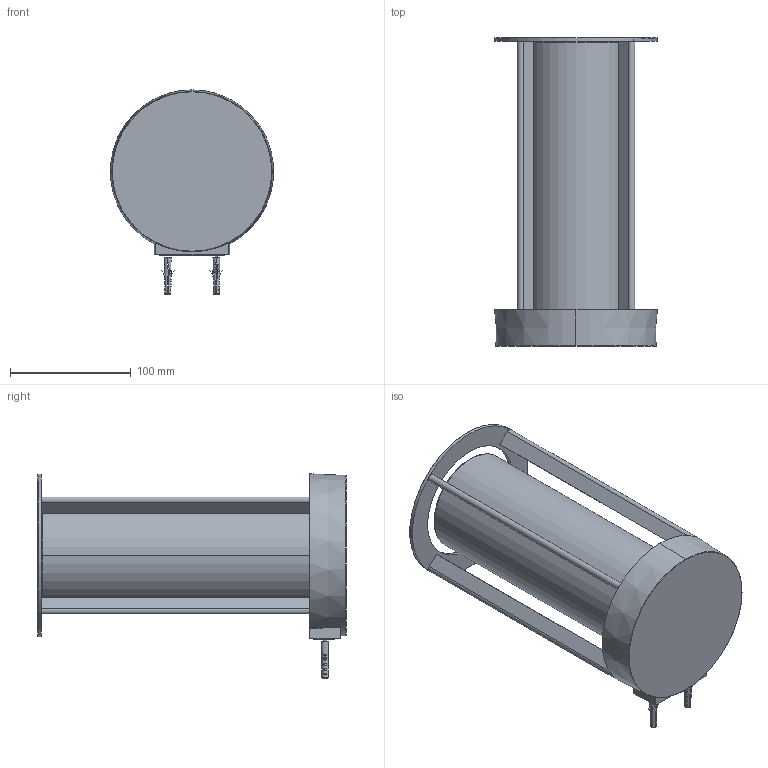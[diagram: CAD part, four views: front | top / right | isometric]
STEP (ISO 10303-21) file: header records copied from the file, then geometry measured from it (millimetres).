
FILE_DESCRIPTION((''),'2;1');
FILE_NAME('PARETE-VETRO_SW0001','2025-06-19T08:27:39',('Piccioli'),(''),'CREO PARAMETRIC BY PTC INC, 2020354','CREO PARAMETRIC BY PTC INC, 2020354','');
FILE_SCHEMA(('CONFIG_CONTROL_DESIGN'));
Length unit declared in the file: millimetre
Products named in the file (1): PARETE-VETRO_SW0001
Bounding box: 134.62 x 255 x 168.9 mm (x, y, z)
Surface area: 149529.5 mm2 (no closed solid volume)
Topology: 0 solids, 40 shells, 114 faces, 894 edges, 818 vertices
Faces by surface type: plane 46, cylinder 39, cone 14, torus 10, bspline 5
Entity records: 12370 total; most frequent: CARTESIAN_POINT 6617, ORIENTED_EDGE 1009, DIRECTION 897, EDGE_CURVE 894, VERTEX_POINT 818, B_SPLINE_CURVE_WITH_KNOTS 415, AXIS2_PLACEMENT_3D 309, VECTOR 279
